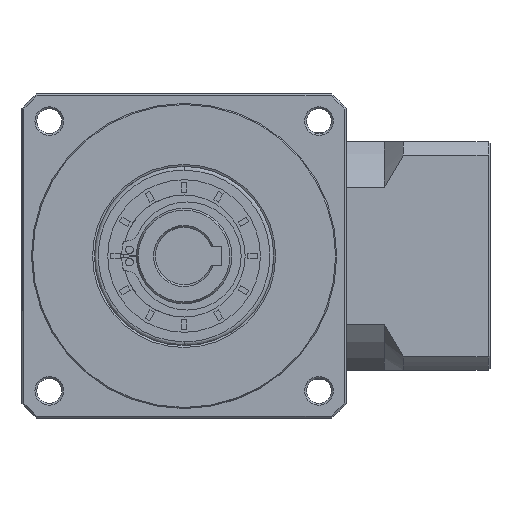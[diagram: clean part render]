
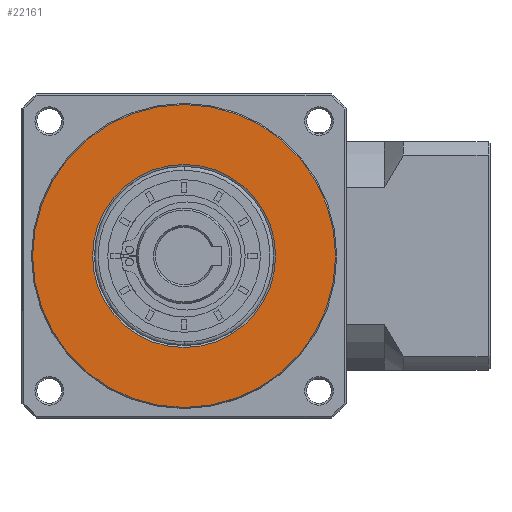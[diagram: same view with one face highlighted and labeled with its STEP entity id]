
A CAD part, left-side view. The second image highlights one B-rep face of the part: STEP entity #22161.
In plain terms, the highlighted planar face has unit normal (-1, 0, 0).
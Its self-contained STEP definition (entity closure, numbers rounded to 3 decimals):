
#3257 = CARTESIAN_POINT ( 'NONE',  ( -104.859, 77.271, 41.711 ) ) ;
#6927 = DIRECTION ( 'NONE',  ( 0., 1., 0. ) ) ;
#9166 = EDGE_CURVE ( 'NONE', #54164, #20222, #164122, .T. ) ;
#10160 = CARTESIAN_POINT ( 'NONE',  ( -104.859, 77.271, 17.711 ) ) ;
#11951 = AXIS2_PLACEMENT_3D ( 'NONE', #97928, #18539, #111275 ) ;
#15332 = DIRECTION ( 'NONE',  ( 1., 0., 0. ) ) ;
#18539 = DIRECTION ( 'NONE',  ( 1., 0., 0. ) ) ;
#20222 = VERTEX_POINT ( 'NONE', #43413 ) ;
#22161 = ADVANCED_FACE ( 'NONE', ( #52468, #87770 ), #61243, .T. ) ;
#23512 = DIRECTION ( 'NONE',  ( 0., 0., -1. ) ) ;
#25359 = CIRCLE ( 'NONE', #129262, 24. ) ;
#28892 = EDGE_CURVE ( 'NONE', #20222, #54164, #25359, .T. ) ;
#33384 = CARTESIAN_POINT ( 'NONE',  ( -104.859, 116.982, 17.711 ) ) ;
#35200 = CARTESIAN_POINT ( 'NONE',  ( -104.859, 77.271, 17.711 ) ) ;
#43413 = CARTESIAN_POINT ( 'NONE',  ( -104.859, 77.271, -6.289 ) ) ;
#45060 = AXIS2_PLACEMENT_3D ( 'NONE', #165803, #86400, #6927 ) ;
#48543 = DIRECTION ( 'NONE',  ( 0., 0., -1. ) ) ;
#50156 = ORIENTED_EDGE ( 'NONE', *, *, #28892, .T. ) ;
#50469 = CIRCLE ( 'NONE', #45060, 39.711 ) ;
#52468 = FACE_OUTER_BOUND ( 'NONE', #66174, .T. ) ;
#54164 = VERTEX_POINT ( 'NONE', #3257 ) ;
#55932 = AXIS2_PLACEMENT_3D ( 'NONE', #35200, #127886, #48543 ) ;
#61243 = PLANE ( 'NONE',  #55932 ) ;
#66174 = EDGE_LOOP ( 'NONE', ( #169715, #68902 ) ) ;
#68902 = ORIENTED_EDGE ( 'NONE', *, *, #83232, .F. ) ;
#72932 = EDGE_LOOP ( 'NONE', ( #50156, #170200 ) ) ;
#83232 = EDGE_CURVE ( 'NONE', #116592, #87124, #140218, .T. ) ;
#86400 = DIRECTION ( 'NONE',  ( 1., 0., 0. ) ) ;
#87124 = VERTEX_POINT ( 'NONE', #33384 ) ;
#87770 = FACE_BOUND ( 'NONE', #72932, .T. ) ;
#94670 = CARTESIAN_POINT ( 'NONE',  ( -104.859, 77.271, 17.711 ) ) ;
#97928 = CARTESIAN_POINT ( 'NONE',  ( -104.859, 77.271, 17.711 ) ) ;
#102895 = DIRECTION ( 'NONE',  ( 1., 0., 0. ) ) ;
#108043 = DIRECTION ( 'NONE',  ( 0., 0., -1. ) ) ;
#111275 = DIRECTION ( 'NONE',  ( 0., 1., 0. ) ) ;
#116592 = VERTEX_POINT ( 'NONE', #141896 ) ;
#127886 = DIRECTION ( 'NONE',  ( -1., 0., 0. ) ) ;
#129262 = AXIS2_PLACEMENT_3D ( 'NONE', #10160, #102895, #23512 ) ;
#140218 = CIRCLE ( 'NONE', #11951, 39.711 ) ;
#141896 = CARTESIAN_POINT ( 'NONE',  ( -104.859, 37.559, 17.711 ) ) ;
#151226 = EDGE_CURVE ( 'NONE', #87124, #116592, #50469, .T. ) ;
#156866 = AXIS2_PLACEMENT_3D ( 'NONE', #94670, #15332, #108043 ) ;
#164122 = CIRCLE ( 'NONE', #156866, 24. ) ;
#165803 = CARTESIAN_POINT ( 'NONE',  ( -104.859, 77.271, 17.711 ) ) ;
#169715 = ORIENTED_EDGE ( 'NONE', *, *, #151226, .F. ) ;
#170200 = ORIENTED_EDGE ( 'NONE', *, *, #9166, .T. ) ;
